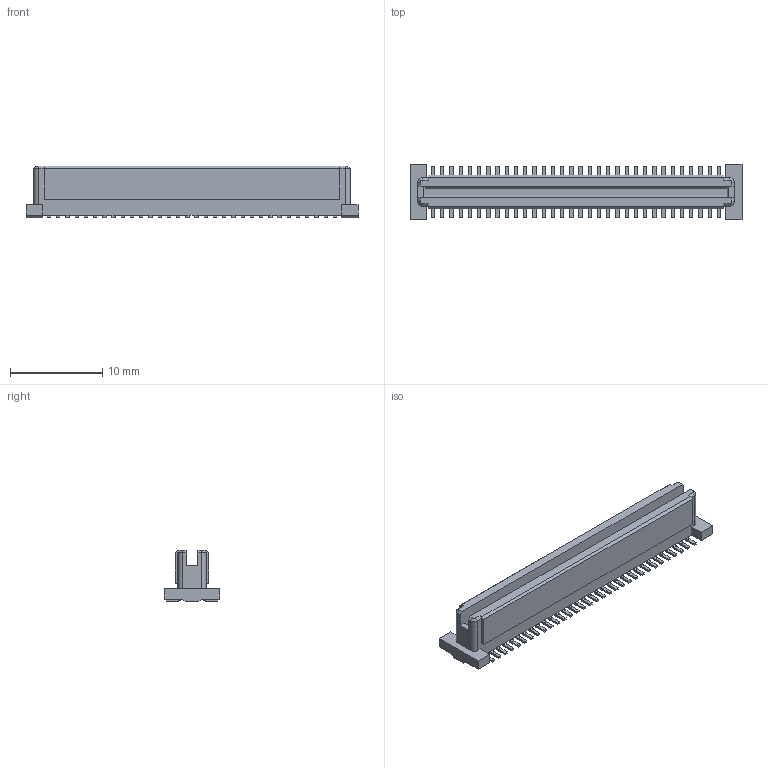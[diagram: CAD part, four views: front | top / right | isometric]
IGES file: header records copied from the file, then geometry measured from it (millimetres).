
Start section: SolidWorks IGES file using analytic representation for surfaces
Bounding box: 36 x 6 x 5.6 mm (x, y, z)
Surface area: 1000.6 mm2 (no closed solid volume)
Topology: 0 solids, 0 shells, 768 faces, 4928 edges, 4928 vertices
Faces by surface type: bspline 504, revolution 264
